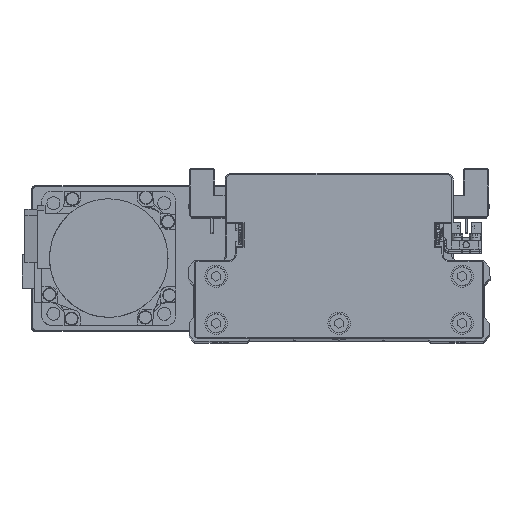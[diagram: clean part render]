
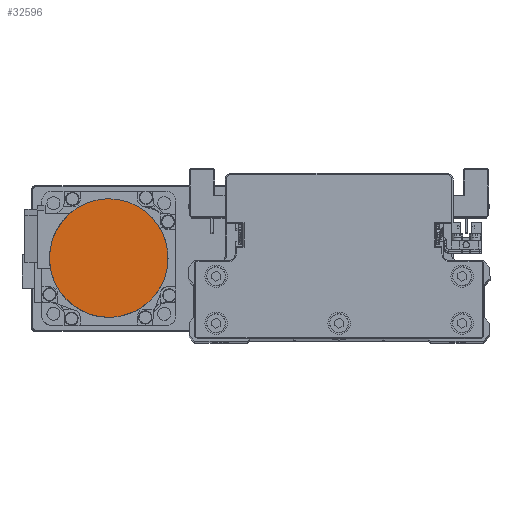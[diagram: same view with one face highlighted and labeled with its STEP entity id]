
A CAD part, top view. The second image highlights one B-rep face of the part: STEP entity #32596.
In plain terms, the highlighted planar face has unit normal (0, 0, 1) as drawn and (0, 0, -1) by its records, which use the part's own axes.
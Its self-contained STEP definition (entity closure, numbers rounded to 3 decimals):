
#962 = CARTESIAN_POINT ( 'NONE',  ( 25.147, 8.539, -109.7 ) ) ;
#1160 = CARTESIAN_POINT ( 'NONE',  ( -1.734, 26.5, -109.7 ) ) ;
#1374 = CARTESIAN_POINT ( 'NONE',  ( -25.652, 6.871, -109.7 ) ) ;
#2547 = CARTESIAN_POINT ( 'NONE',  ( -26.5, 0., -109.7 ) ) ;
#2768 = CARTESIAN_POINT ( 'NONE',  ( -8.539, -25.147, -109.7 ) ) ;
#2956 = CARTESIAN_POINT ( 'NONE',  ( 21.07, -16.165, -109.7 ) ) ;
#4046 = CARTESIAN_POINT ( 'NONE',  ( 26.5, 1.734, -109.7 ) ) ;
#4237 = CARTESIAN_POINT ( 'NONE',  ( 6.871, 25.652, -109.7 ) ) ;
#4433 = CARTESIAN_POINT ( 'NONE',  ( -22.998, 13.28, -109.7 ) ) ;
#5804 = CARTESIAN_POINT ( 'NONE',  ( -16.165, -21.07, -109.7 ) ) ;
#6018 = CARTESIAN_POINT ( 'NONE',  ( 16.165, -21.07, -109.7 ) ) ;
#7302 = CARTESIAN_POINT ( 'NONE',  ( 13.28, 22.998, -109.7 ) ) ;
#7495 = CARTESIAN_POINT ( 'NONE',  ( -17.512, 19.965, -109.7 ) ) ;
#8200 = CARTESIAN_POINT ( 'NONE',  ( 0., 0., -109.7 ) ) ;
#8857 = CARTESIAN_POINT ( 'NONE',  ( -21.07, -16.165, -109.7 ) ) ;
#9051 = CARTESIAN_POINT ( 'NONE',  ( -26.5, 0., -109.7 ) ) ;
#9063 = CARTESIAN_POINT ( 'NONE',  ( 8.539, -25.147, -109.7 ) ) ;
#9280 = CARTESIAN_POINT ( 'NONE',  ( 26.5, 0., -109.7 ) ) ;
#10339 = CARTESIAN_POINT ( 'NONE',  ( 19.965, 17.512, -109.7 ) ) ;
#10548 = CARTESIAN_POINT ( 'NONE',  ( -11.744, 23.819, -109.7 ) ) ;
#11137 = B_SPLINE_CURVE_WITH_KNOTS ( 'NONE', 3,
 ( #2547, #14973, #27391, #39873, #11926, #24330, #36788, #8857, #21273, #33722, #5804, #18222, #30675, #2768, #15180, #27590, #40059, #12116, #24520, #36980, #9063, #21485, #33938, #6018, #18428, #30864, #2956, #15368, #27789, #40255, #12308, #24724, #37200, #9280 ),
 .UNSPECIFIED., .F., .F.,
 ( 4, 2, 2, 2, 2, 2, 2, 2, 2, 2, 2, 2, 2, 2, 2, 2, 4 ),
 ( 0., 0.063, 0.125, 0.188, 0.25, 0.312, 0.375, 0.437, 0.5, 0.562, 0.625, 0.687, 0.75, 0.813, 0.875, 0.938, 1. ),
 .UNSPECIFIED. ) ;
#11926 = CARTESIAN_POINT ( 'NONE',  ( -25.147, -8.539, -109.7 ) ) ;
#12116 = CARTESIAN_POINT ( 'NONE',  ( 1.734, -26.5, -109.7 ) ) ;
#12308 = CARTESIAN_POINT ( 'NONE',  ( 25.652, -6.871, -109.7 ) ) ;
#12862 = VERTEX_POINT ( 'NONE', #21576 ) ;
#13385 = CARTESIAN_POINT ( 'NONE',  ( 23.819, 11.744, -109.7 ) ) ;
#13496 = ORIENTED_EDGE ( 'NONE', *, *, #28447, .F. ) ;
#13583 = CARTESIAN_POINT ( 'NONE',  ( -3.469, 26.329, -109.7 ) ) ;
#13796 = CARTESIAN_POINT ( 'NONE',  ( -26.329, 3.469, -109.7 ) ) ;
#14973 = CARTESIAN_POINT ( 'NONE',  ( -26.5, -1.734, -109.7 ) ) ;
#15180 = CARTESIAN_POINT ( 'NONE',  ( -6.871, -25.652, -109.7 ) ) ;
#15368 = CARTESIAN_POINT ( 'NONE',  ( 22.998, -13.28, -109.7 ) ) ;
#16465 = CARTESIAN_POINT ( 'NONE',  ( 26.329, 3.469, -109.7 ) ) ;
#16652 = CARTESIAN_POINT ( 'NONE',  ( 3.469, 26.329, -109.7 ) ) ;
#16849 = CARTESIAN_POINT ( 'NONE',  ( -23.819, 11.744, -109.7 ) ) ;
#18222 = CARTESIAN_POINT ( 'NONE',  ( -13.28, -22.998, -109.7 ) ) ;
#18428 = CARTESIAN_POINT ( 'NONE',  ( 17.512, -19.965, -109.7 ) ) ;
#19714 = CARTESIAN_POINT ( 'NONE',  ( 11.744, 23.819, -109.7 ) ) ;
#19846 = EDGE_LOOP ( 'NONE', ( #25594, #13496 ) ) ;
#19897 = CARTESIAN_POINT ( 'NONE',  ( -19.965, 17.512, -109.7 ) ) ;
#20610 = DIRECTION ( 'NONE',  ( 0., 0., 1. ) ) ;
#21273 = CARTESIAN_POINT ( 'NONE',  ( -19.965, -17.512, -109.7 ) ) ;
#21485 = CARTESIAN_POINT ( 'NONE',  ( 11.744, -23.819, -109.7 ) ) ;
#21576 = CARTESIAN_POINT ( 'NONE',  ( 26.5, 0., -109.7 ) ) ;
#22756 = CARTESIAN_POINT ( 'NONE',  ( 17.512, 19.965, -109.7 ) ) ;
#22962 = CARTESIAN_POINT ( 'NONE',  ( -13.28, 22.998, -109.7 ) ) ;
#23657 = FACE_OUTER_BOUND ( 'NONE', #19846, .T. ) ;
#23706 = EDGE_CURVE ( 'NONE', #12862, #39840, #30707, .T. ) ;
#24330 = CARTESIAN_POINT ( 'NONE',  ( -23.819, -11.744, -109.7 ) ) ;
#24520 = CARTESIAN_POINT ( 'NONE',  ( 3.469, -26.329, -109.7 ) ) ;
#24724 = CARTESIAN_POINT ( 'NONE',  ( 26.329, -3.469, -109.7 ) ) ;
#25594 = ORIENTED_EDGE ( 'NONE', *, *, #23706, .F. ) ;
#25805 = CARTESIAN_POINT ( 'NONE',  ( 22.998, 13.28, -109.7 ) ) ;
#26016 = CARTESIAN_POINT ( 'NONE',  ( -6.871, 25.652, -109.7 ) ) ;
#26216 = CARTESIAN_POINT ( 'NONE',  ( -26.5, 1.734, -109.7 ) ) ;
#27391 = CARTESIAN_POINT ( 'NONE',  ( -26.329, -3.469, -109.7 ) ) ;
#27590 = CARTESIAN_POINT ( 'NONE',  ( -3.469, -26.329, -109.7 ) ) ;
#27789 = CARTESIAN_POINT ( 'NONE',  ( 23.819, -11.744, -109.7 ) ) ;
#28447 = EDGE_CURVE ( 'NONE', #39840, #12862, #11137, .T. ) ;
#28887 = CARTESIAN_POINT ( 'NONE',  ( 25.652, 6.871, -109.7 ) ) ;
#29083 = CARTESIAN_POINT ( 'NONE',  ( 1.734, 26.5, -109.7 ) ) ;
#29293 = CARTESIAN_POINT ( 'NONE',  ( -25.147, 8.539, -109.7 ) ) ;
#29871 = AXIS2_PLACEMENT_3D ( 'NONE', #8200, #20610, #33060 ) ;
#30675 = CARTESIAN_POINT ( 'NONE',  ( -11.744, -23.819, -109.7 ) ) ;
#30707 = B_SPLINE_CURVE_WITH_KNOTS ( 'NONE', 3,
 ( #31955, #4046, #16465, #28887, #962, #13385, #25805, #38270, #10339, #22756, #35220, #7302, #19714, #32160, #4237, #16652, #29083, #1160, #13583, #26016, #38485, #10548, #22962, #35419, #7495, #19897, #32346, #4433, #16849, #29293, #1374, #13796, #26216, #38681 ),
 .UNSPECIFIED., .F., .F.,
 ( 4, 2, 2, 2, 2, 2, 2, 2, 2, 2, 2, 2, 2, 2, 2, 2, 4 ),
 ( 0., 0.062, 0.125, 0.187, 0.25, 0.312, 0.375, 0.437, 0.5, 0.562, 0.625, 0.687, 0.75, 0.813, 0.875, 0.938, 1. ),
 .UNSPECIFIED. ) ;
#30864 = CARTESIAN_POINT ( 'NONE',  ( 19.965, -17.512, -109.7 ) ) ;
#31955 = CARTESIAN_POINT ( 'NONE',  ( 26.5, 0., -109.7 ) ) ;
#32160 = CARTESIAN_POINT ( 'NONE',  ( 8.539, 25.147, -109.7 ) ) ;
#32346 = CARTESIAN_POINT ( 'NONE',  ( -21.07, 16.165, -109.7 ) ) ;
#32596 = ADVANCED_FACE ( 'NONE', ( #23657 ), #36127, .F. ) ;
#33060 = DIRECTION ( 'NONE',  ( 1., 0., 0. ) ) ;
#33722 = CARTESIAN_POINT ( 'NONE',  ( -17.512, -19.965, -109.7 ) ) ;
#33938 = CARTESIAN_POINT ( 'NONE',  ( 13.28, -22.998, -109.7 ) ) ;
#35220 = CARTESIAN_POINT ( 'NONE',  ( 16.165, 21.07, -109.7 ) ) ;
#35419 = CARTESIAN_POINT ( 'NONE',  ( -16.165, 21.07, -109.7 ) ) ;
#36127 = PLANE ( 'NONE',  #29871 ) ;
#36788 = CARTESIAN_POINT ( 'NONE',  ( -22.998, -13.28, -109.7 ) ) ;
#36980 = CARTESIAN_POINT ( 'NONE',  ( 6.871, -25.652, -109.7 ) ) ;
#37200 = CARTESIAN_POINT ( 'NONE',  ( 26.5, -1.734, -109.7 ) ) ;
#38270 = CARTESIAN_POINT ( 'NONE',  ( 21.07, 16.165, -109.7 ) ) ;
#38485 = CARTESIAN_POINT ( 'NONE',  ( -8.539, 25.147, -109.7 ) ) ;
#38681 = CARTESIAN_POINT ( 'NONE',  ( -26.5, 0., -109.7 ) ) ;
#39840 = VERTEX_POINT ( 'NONE', #9051 ) ;
#39873 = CARTESIAN_POINT ( 'NONE',  ( -25.652, -6.871, -109.7 ) ) ;
#40059 = CARTESIAN_POINT ( 'NONE',  ( -1.734, -26.5, -109.7 ) ) ;
#40255 = CARTESIAN_POINT ( 'NONE',  ( 25.147, -8.539, -109.7 ) ) ;
